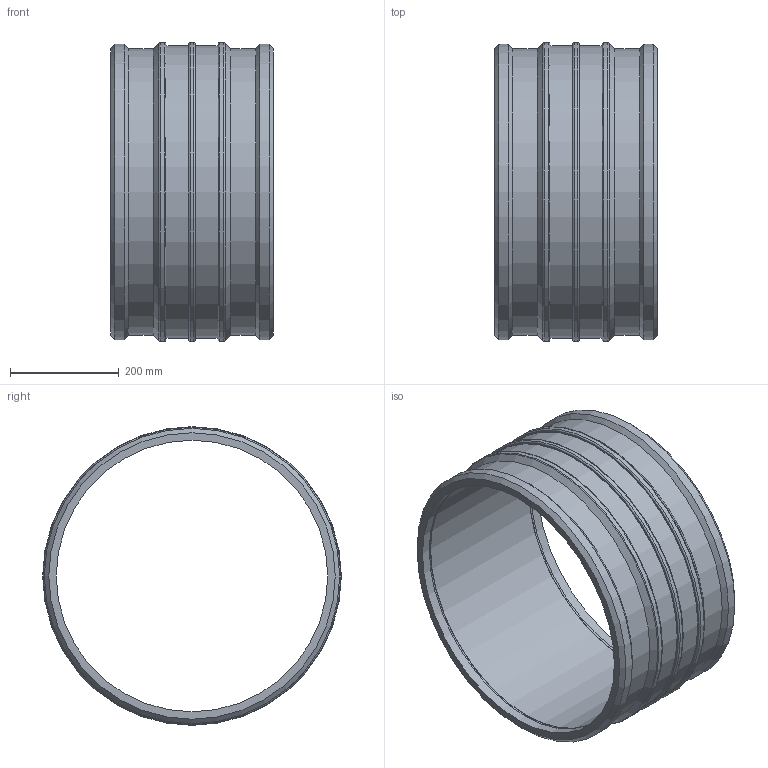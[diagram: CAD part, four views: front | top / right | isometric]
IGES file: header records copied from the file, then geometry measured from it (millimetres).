
Global section: file name: 4601S3500.ipt; native system: Autodesk Inventor 2015; preprocessor: unknown; author: KIM; date: 20190627.094246; units: millimetre
Bounding box: 300 x 550 x 550 mm (x, y, z)
Volume: 9052140.7 mm3; surface area: 1093335.8 mm2
Topology: 1 solids, 1 shells, 48 faces, 106 edges, 70 vertices
Faces by surface type: cylinder 15, plane 14, revolution 13, cone 6
Full cylindrical faces by diameter (mm): 4 x2, 527.68 x2, 539 x2, 544 x2, 550 x3
